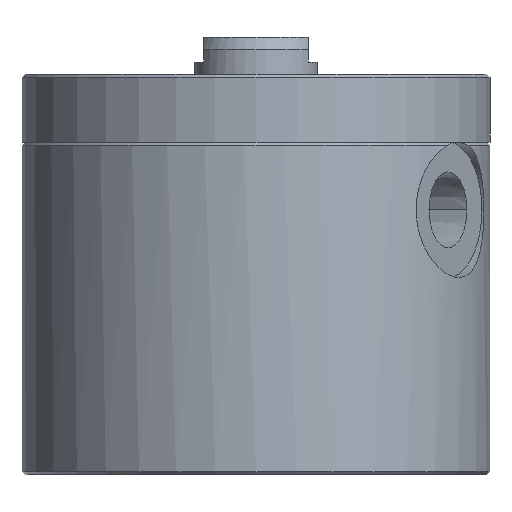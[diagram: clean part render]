
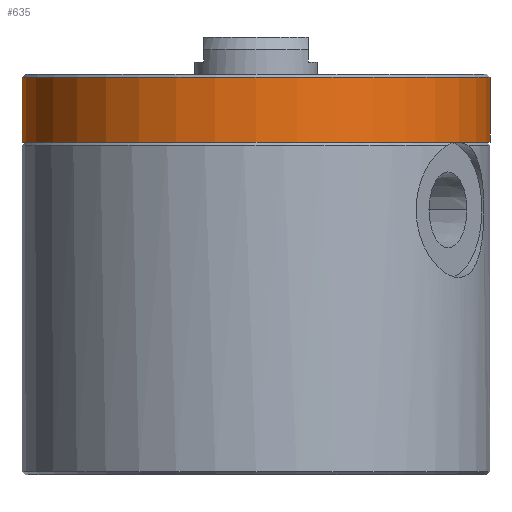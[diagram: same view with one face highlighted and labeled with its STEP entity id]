
A CAD part, front view. The second image highlights one B-rep face of the part: STEP entity #635.
In plain terms, the highlighted cylindrical face has radius 38 mm (diameter 76 mm), a partial arc.
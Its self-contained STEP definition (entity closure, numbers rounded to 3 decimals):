
#102 = VERTEX_POINT ( 'NONE', #2745 ) ;
#201 = CARTESIAN_POINT ( 'NONE',  ( -38., 0., 65. ) ) ;
#203 = DIRECTION ( 'NONE',  ( 0., 0., -1. ) ) ;
#368 = CARTESIAN_POINT ( 'NONE',  ( -38., 0., 54. ) ) ;
#635 = ADVANCED_FACE ( 'NONE', ( #2178 ), #2153, .T. ) ;
#663 = EDGE_CURVE ( 'NONE', #102, #2686, #2142, .T. ) ;
#677 = AXIS2_PLACEMENT_3D ( 'NONE', #2716, #2702, #2695 ) ;
#695 = AXIS2_PLACEMENT_3D ( 'NONE', #2736, #2732, #2729 ) ;
#954 = VERTEX_POINT ( 'NONE', #368 ) ;
#1009 = CIRCLE ( 'NONE', #677, 38. ) ;
#1014 = CIRCLE ( 'NONE', #695, 38. ) ;
#1026 = CARTESIAN_POINT ( 'NONE',  ( -38., 0., 64.5 ) ) ;
#1059 = CARTESIAN_POINT ( 'NONE',  ( 38., 0., 65. ) ) ;
#1084 = DIRECTION ( 'NONE',  ( 0., 0., -1. ) ) ;
#1127 = DIRECTION ( 'NONE',  ( -1., 0., 0. ) ) ;
#1148 = CARTESIAN_POINT ( 'NONE',  ( 0., 0., 65. ) ) ;
#1249 = CARTESIAN_POINT ( 'NONE',  ( 38., 0., 54. ) ) ;
#1262 = EDGE_CURVE ( 'NONE', #3194, #954, #1951, .T. ) ;
#1272 = DIRECTION ( 'NONE',  ( 0., 0., -1. ) ) ;
#1936 = VECTOR ( 'NONE', #203, 1000. ) ;
#1937 = AXIS2_PLACEMENT_3D ( 'NONE', #1148, #1272, #1127 ) ;
#1951 = LINE ( 'NONE', #201, #1936 ) ;
#2102 = ORIENTED_EDGE ( 'NONE', *, *, #2896, .T. ) ;
#2141 = ORIENTED_EDGE ( 'NONE', *, *, #1262, .T. ) ;
#2142 = LINE ( 'NONE', #1059, #2151 ) ;
#2151 = VECTOR ( 'NONE', #1084, 1000. ) ;
#2153 = CYLINDRICAL_SURFACE ( 'NONE', #1937, 38. ) ;
#2178 = FACE_OUTER_BOUND ( 'NONE', #3102, .T. ) ;
#2189 = ORIENTED_EDGE ( 'NONE', *, *, #2890, .T. ) ;
#2190 = ORIENTED_EDGE ( 'NONE', *, *, #663, .F. ) ;
#2686 = VERTEX_POINT ( 'NONE', #1249 ) ;
#2695 = DIRECTION ( 'NONE',  ( 1., 0., 0. ) ) ;
#2702 = DIRECTION ( 'NONE',  ( 0., 0., 1. ) ) ;
#2716 = CARTESIAN_POINT ( 'NONE',  ( 0., 0., 54. ) ) ;
#2729 = DIRECTION ( 'NONE',  ( 1., 0., 0. ) ) ;
#2732 = DIRECTION ( 'NONE',  ( 0., 0., -1. ) ) ;
#2736 = CARTESIAN_POINT ( 'NONE',  ( 0., 0., 64.5 ) ) ;
#2745 = CARTESIAN_POINT ( 'NONE',  ( 38., 0., 64.5 ) ) ;
#2890 = EDGE_CURVE ( 'NONE', #102, #3194, #1014, .T. ) ;
#2896 = EDGE_CURVE ( 'NONE', #954, #2686, #1009, .T. ) ;
#3102 = EDGE_LOOP ( 'NONE', ( #2190, #2189, #2141, #2102 ) ) ;
#3194 = VERTEX_POINT ( 'NONE', #1026 ) ;
